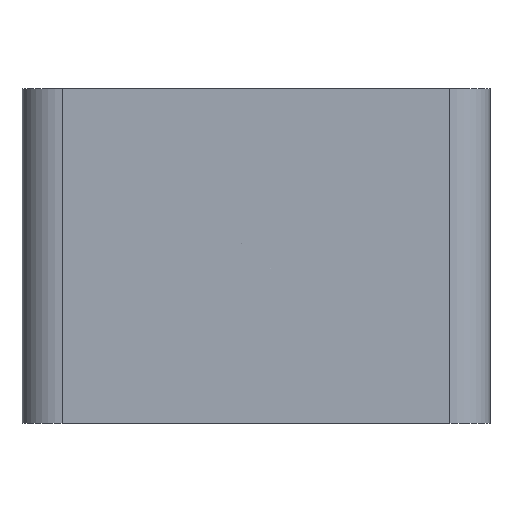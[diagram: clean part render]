
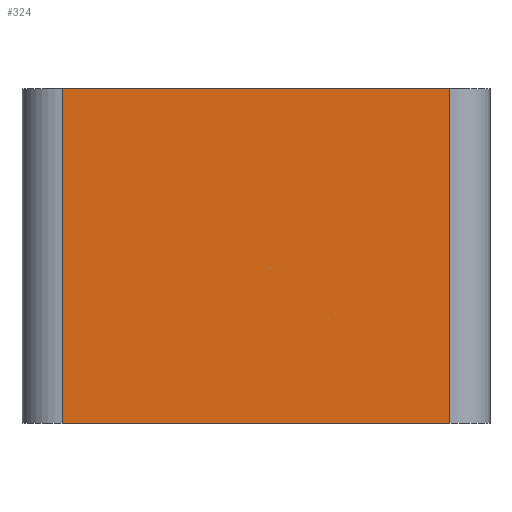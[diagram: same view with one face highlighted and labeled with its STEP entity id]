
A CAD part, front view. The second image highlights one B-rep face of the part: STEP entity #324.
In plain terms, the highlighted planar face has unit normal (0, -1, 0).
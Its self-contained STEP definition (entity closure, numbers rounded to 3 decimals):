
#174=FACE_OUTER_BOUND('',#1101,.T.);
#324=ADVANCED_FACE('',(#174),#501,.T.);
#501=PLANE('',#3155);
#621=LINE('',#4583,#777);
#626=LINE('',#4602,#782);
#627=LINE('',#4605,#783);
#628=LINE('',#4606,#784);
#777=VECTOR('',#3370,1.);
#782=VECTOR('',#3387,1.);
#783=VECTOR('',#3388,1.);
#784=VECTOR('',#3389,1.);
#1101=EDGE_LOOP('',(#1424,#1425,#1426,#1427));
#1424=ORIENTED_EDGE('',*,*,#2582,.T.);
#1425=ORIENTED_EDGE('',*,*,#2583,.T.);
#1426=ORIENTED_EDGE('',*,*,#2573,.T.);
#1427=ORIENTED_EDGE('',*,*,#2584,.T.);
#2279=VERTEX_POINT('',#4582);
#2280=VERTEX_POINT('',#4584);
#2288=VERTEX_POINT('',#4603);
#2289=VERTEX_POINT('',#4604);
#2573=EDGE_CURVE('',#2280,#2279,#621,.T.);
#2582=EDGE_CURVE('',#2288,#2289,#626,.T.);
#2583=EDGE_CURVE('',#2289,#2280,#627,.T.);
#2584=EDGE_CURVE('',#2279,#2288,#628,.T.);
#3155=AXIS2_PLACEMENT_3D('',#4607,#3390,#3391);
#3370=DIRECTION('',(-1.,0.,0.));
#3387=DIRECTION('',(1.,0.,0.));
#3388=DIRECTION('',(0.,0.,1.));
#3389=DIRECTION('',(0.,0.,-1.));
#3390=DIRECTION('',(0.,-1.,0.));
#3391=DIRECTION('',(0.,0.,-1.));
#4582=CARTESIAN_POINT('',(3.,0.,25.));
#4583=CARTESIAN_POINT('',(17.5,0.,25.));
#4584=CARTESIAN_POINT('',(32.,0.,25.));
#4602=CARTESIAN_POINT('',(17.5,0.,0.));
#4603=CARTESIAN_POINT('',(3.,0.,0.));
#4604=CARTESIAN_POINT('',(32.,0.,0.));
#4605=CARTESIAN_POINT('',(32.,0.,0.));
#4606=CARTESIAN_POINT('',(3.,0.,0.));
#4607=CARTESIAN_POINT('',(17.5,0.,0.));
